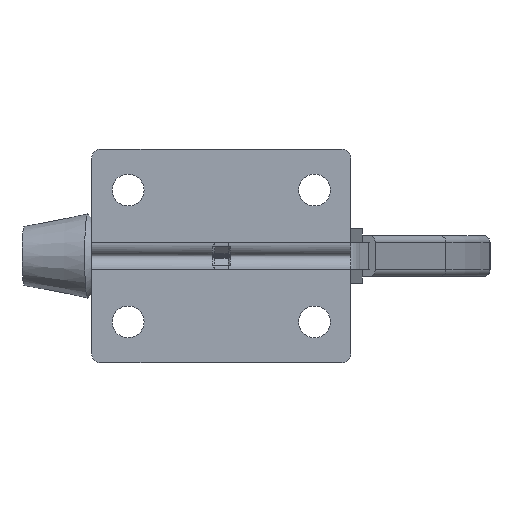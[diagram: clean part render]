
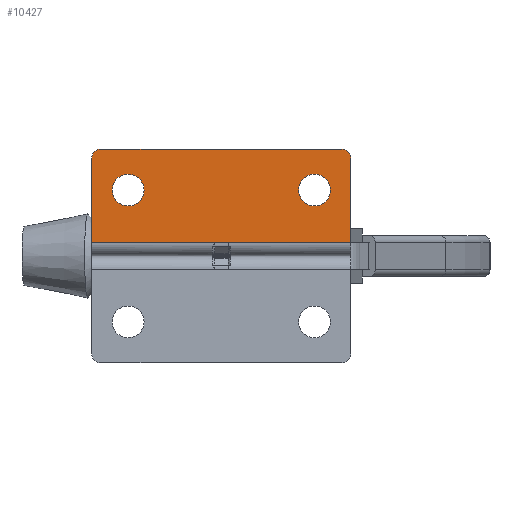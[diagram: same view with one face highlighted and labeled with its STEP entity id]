
A CAD part, front view. The second image highlights one B-rep face of the part: STEP entity #10427.
In plain terms, the highlighted planar face has unit normal (0, -1, 0).
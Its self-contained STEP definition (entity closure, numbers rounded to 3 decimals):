
#393=FACE_BOUND('',#2103,.T.);
#394=FACE_BOUND('',#2104,.T.);
#1031=PLANE('',#11163);
#1498=FACE_OUTER_BOUND('',#2102,.T.);
#2102=EDGE_LOOP('',(#9082,#9083,#9084,#9085,#9086,#9087));
#2103=EDGE_LOOP('',(#9088,#9089));
#2104=EDGE_LOOP('',(#9090,#9091));
#2922=LINE('',#25045,#3765);
#2925=LINE('',#25050,#3768);
#2926=LINE('',#25052,#3769);
#2927=LINE('',#25056,#3770);
#3765=VECTOR('',#12849,1000.);
#3768=VECTOR('',#12854,1000.);
#3769=VECTOR('',#12855,1000.);
#3770=VECTOR('',#12858,1000.);
#4073=CIRCLE('',#11127,3.5);
#4074=CIRCLE('',#11128,3.5);
#4077=CIRCLE('',#11132,3.5);
#4078=CIRCLE('',#11133,3.5);
#4098=CIRCLE('',#11164,2.);
#4099=CIRCLE('',#11165,2.);
#4941=VERTEX_POINT('',#24931);
#4942=VERTEX_POINT('',#24933);
#4945=VERTEX_POINT('',#24941);
#4946=VERTEX_POINT('',#24943);
#4989=VERTEX_POINT('',#25042);
#4990=VERTEX_POINT('',#25044);
#4991=VERTEX_POINT('',#25049);
#4992=VERTEX_POINT('',#25051);
#4993=VERTEX_POINT('',#25053);
#4994=VERTEX_POINT('',#25055);
#6347=EDGE_CURVE('',#4941,#4942,#4073,.T.);
#6348=EDGE_CURVE('',#4942,#4941,#4074,.T.);
#6352=EDGE_CURVE('',#4945,#4946,#4077,.T.);
#6353=EDGE_CURVE('',#4946,#4945,#4078,.T.);
#6403=EDGE_CURVE('',#4990,#4989,#2922,.T.);
#6406=EDGE_CURVE('',#4989,#4991,#2925,.T.);
#6407=EDGE_CURVE('',#4992,#4991,#2926,.T.);
#6408=EDGE_CURVE('',#4992,#4993,#4098,.T.);
#6409=EDGE_CURVE('',#4993,#4994,#2927,.T.);
#6410=EDGE_CURVE('',#4994,#4990,#4099,.T.);
#9082=ORIENTED_EDGE('',*,*,#6403,.T.);
#9083=ORIENTED_EDGE('',*,*,#6406,.T.);
#9084=ORIENTED_EDGE('',*,*,#6407,.F.);
#9085=ORIENTED_EDGE('',*,*,#6408,.T.);
#9086=ORIENTED_EDGE('',*,*,#6409,.T.);
#9087=ORIENTED_EDGE('',*,*,#6410,.T.);
#9088=ORIENTED_EDGE('',*,*,#6348,.F.);
#9089=ORIENTED_EDGE('',*,*,#6347,.F.);
#9090=ORIENTED_EDGE('',*,*,#6353,.F.);
#9091=ORIENTED_EDGE('',*,*,#6352,.F.);
#10427=ADVANCED_FACE('',(#1498,#393,#394),#1031,.F.);
#11127=AXIS2_PLACEMENT_3D('',#24934,#12750,#12751);
#11128=AXIS2_PLACEMENT_3D('',#24935,#12752,#12753);
#11132=AXIS2_PLACEMENT_3D('',#24944,#12761,#12762);
#11133=AXIS2_PLACEMENT_3D('',#24945,#12763,#12764);
#11163=AXIS2_PLACEMENT_3D('',#25048,#12852,#12853);
#11164=AXIS2_PLACEMENT_3D('',#25054,#12856,#12857);
#11165=AXIS2_PLACEMENT_3D('',#25057,#12859,#12860);
#12750=DIRECTION('center_axis',(0.,-1.,0.));
#12751=DIRECTION('ref_axis',(0.,0.,1.));
#12752=DIRECTION('center_axis',(0.,-1.,0.));
#12753=DIRECTION('ref_axis',(0.,0.,1.));
#12761=DIRECTION('center_axis',(0.,-1.,0.));
#12762=DIRECTION('ref_axis',(0.,0.,-1.));
#12763=DIRECTION('center_axis',(0.,-1.,0.));
#12764=DIRECTION('ref_axis',(0.,0.,-1.));
#12849=DIRECTION('',(0.,0.,-1.));
#12852=DIRECTION('center_axis',(0.,1.,0.));
#12853=DIRECTION('ref_axis',(0.,0.,1.));
#12854=DIRECTION('',(1.,0.,0.));
#12855=DIRECTION('',(0.,0.,-1.));
#12856=DIRECTION('center_axis',(0.,-1.,0.));
#12857=DIRECTION('ref_axis',(0.,0.,-1.));
#12858=DIRECTION('',(-1.,0.,0.));
#12859=DIRECTION('center_axis',(0.,-1.,0.));
#12860=DIRECTION('ref_axis',(0.,0.,-1.));
#24931=CARTESIAN_POINT('',(8.,0.,18.));
#24933=CARTESIAN_POINT('',(8.,0.,11.));
#24934=CARTESIAN_POINT('Origin',(8.,0.,14.5));
#24935=CARTESIAN_POINT('Origin',(8.,0.,14.5));
#24941=CARTESIAN_POINT('',(49.,0.,18.));
#24943=CARTESIAN_POINT('',(49.,0.,11.));
#24944=CARTESIAN_POINT('Origin',(49.,0.,14.5));
#24945=CARTESIAN_POINT('Origin',(49.,0.,14.5));
#25042=CARTESIAN_POINT('',(0.,0.,3.));
#25044=CARTESIAN_POINT('',(0.,0.,21.5));
#25045=CARTESIAN_POINT('',(0.,0.,3.));
#25048=CARTESIAN_POINT('Origin',(0.,0.,3.));
#25049=CARTESIAN_POINT('',(57.,0.,3.));
#25050=CARTESIAN_POINT('',(0.,0.,3.));
#25051=CARTESIAN_POINT('',(57.,0.,21.5));
#25052=CARTESIAN_POINT('',(57.,0.,3.));
#25053=CARTESIAN_POINT('',(55.,0.,23.5));
#25054=CARTESIAN_POINT('Origin',(55.,0.,21.5));
#25055=CARTESIAN_POINT('',(2.,0.,23.5));
#25056=CARTESIAN_POINT('',(55.,0.,23.5));
#25057=CARTESIAN_POINT('Origin',(2.,0.,21.5));
